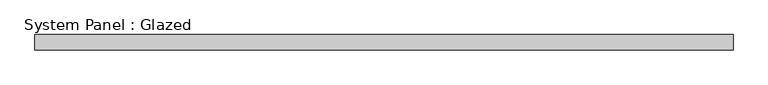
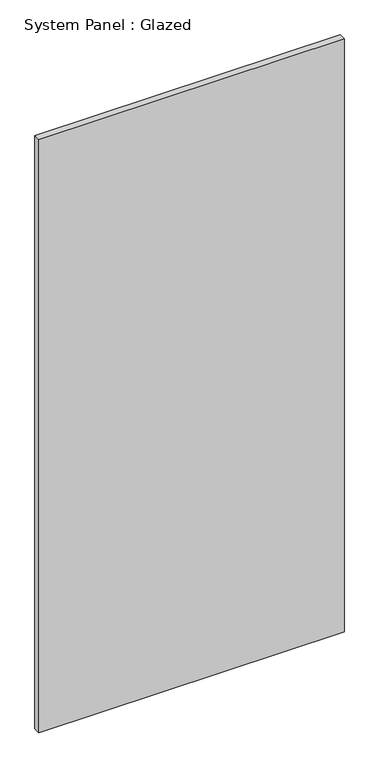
"""IFC4 building model written with IfcOpenShell, lengths in millimetres: plate geometry, System Panel : Glazed."""

import ifcopenshell
import ifcopenshell.guid

model = None  # the IFC model being written
_history = None  # IfcOwnerHistory: only IFC2X3 demands one
_inside = {}  # id of a spatial element -> (the spatial element, [elements in it])
_under = {}  # id of a project, library or spatial element -> (it, [spatial elements below it])
_declared = {}  # id of a project -> (the project, [libraries it declares])
_typed = {}  # id of a type object -> (the type object, [elements of that type])
_made_of = {}  # id of a material, layer set ... -> (it, [elements and type objects made of it])


def new_model(schema):
    """Start an empty IFC model of exactly this schema.

    Asked for "IFC4X3", IfcOpenShell would pick the latest addendum, in which some entities
    have other attributes; the version numbers below select the first issue.
    IFC2X3 requires an IfcOwnerHistory on every rooted entity: one is made here for all.
    """
    global model, _history
    if schema == "IFC4X3":
        model = ifcopenshell.file(schema_version=(4, 3, 0, 0))
    else:
        model = ifcopenshell.file(schema=schema)
    _inside.clear()
    _under.clear()
    _declared.clear()
    _typed.clear()
    _made_of.clear()
    _history = None
    if model.schema == "IFC2X3":
        org = make("IfcOrganization", Name="unknown")
        user = make(
            "IfcPersonAndOrganization",
            ThePerson=make("IfcPerson", FamilyName="unknown"),
            TheOrganization=org,
        )
        app = make(
            "IfcApplication",
            ApplicationDeveloper=org,
            Version="unknown",
            ApplicationFullName="unknown",
            ApplicationIdentifier="unknown",
        )
        _history = make(
            "IfcOwnerHistory",
            OwningUser=user,
            OwningApplication=app,
            ChangeAction="ADDED",
            CreationDate=0,
        )
    return model


def make(cls, **values):
    """One entity of the class cls with the attributes given. An attribute that is None is left unset."""
    return model.create_entity(
        cls, **{name: value for name, value in values.items() if value is not None}
    )


def rooted(cls, **values):
    """An entity with a GlobalId (a new one), such as an element, a storey or a relation."""
    return make(cls, GlobalId=ifcopenshell.guid.new(), OwnerHistory=_history, **values)


def si_unit(unit_type, name, prefix=None):
    """IfcSIUnit, for example si_unit("LENGTHUNIT", "METRE", prefix="MILLI")."""
    return make("IfcSIUnit", UnitType=unit_type, Prefix=prefix, Name=name)


def assignment(units):
    """IfcUnitAssignment: the units of a project."""
    return None if units is None else make("IfcUnitAssignment", Units=units)


def point(xyz):
    """IfcCartesianPoint."""
    return None if xyz is None else make("IfcCartesianPoint", Coordinates=xyz)


def direction(xyz):
    """IfcDirection."""
    return None if xyz is None else make("IfcDirection", DirectionRatios=xyz)


def frame(location, z_axis=None, x_axis=None):
    """IfcAxis2Placement3D, a coordinate frame: its origin and axes. An axis left out is left unset."""
    return make(
        "IfcAxis2Placement3D",
        Location=point(location),
        Axis=direction(z_axis),
        RefDirection=direction(x_axis),
    )


def origin():
    """The frame at (0, 0, 0) with its axes left unset."""
    return frame((0.0, 0.0, 0.0))


def origin_with_axes():
    """The frame at (0, 0, 0) with the z axis (0, 0, 1) and the x axis (1, 0, 0) written out."""
    return frame((0.0, 0.0, 0.0), z_axis=(0.0, 0.0, 1.0), x_axis=(1.0, 0.0, 0.0))


def place(relative_to, where):
    """IfcLocalPlacement: puts the frame where relative to a parent placement (None: the world)."""
    return make(
        "IfcLocalPlacement", PlacementRelTo=relative_to, RelativePlacement=where
    )


def context(
    kind, dimensions, precision=None, world=None, true_north=None, identifier=None
):
    """IfcGeometricRepresentationContext, for example the 3D "Model" context."""
    return make(
        "IfcGeometricRepresentationContext",
        ContextIdentifier=identifier,
        ContextType=kind,
        CoordinateSpaceDimension=dimensions,
        Precision=precision,
        WorldCoordinateSystem=world,
        TrueNorth=true_north,
    )


def project(units=None, contexts=None):
    """IfcProject with its units and contexts."""
    return rooted(
        "IfcProject",
        Name="project",
        RepresentationContexts=contexts,
        UnitsInContext=assignment(units),
    )


def spatial(cls, under=None, at=None, **own):
    """A site, building, storey or space (cls), placed at a placement, below another one or the project."""
    s = rooted(cls, ObjectPlacement=at, **own)
    if under is not None:
        _under.setdefault(under.id(), (under, []))[1].append(s)
    return s


def polyline(points):
    """IfcPolyline through the points."""
    return make("IfcPolyline", Points=[point(p) for p in points])


def outline(outer, holes=None, kind="AREA"):
    """IfcArbitraryClosedProfileDef: a profile drawn as a closed curve; with holes, ...WithVoids."""
    if holes is None:
        return make("IfcArbitraryClosedProfileDef", ProfileType=kind, OuterCurve=outer)
    return make(
        "IfcArbitraryProfileDefWithVoids",
        ProfileType=kind,
        OuterCurve=outer,
        InnerCurves=holes,
    )


def extrude(swept, where, along, depth):
    """IfcExtrudedAreaSolid: the profile swept, set in the frame where, extruded along a direction by depth."""
    return make(
        "IfcExtrudedAreaSolid",
        SweptArea=swept,
        Position=where,
        ExtrudedDirection=direction(along),
        Depth=depth,
    )


def shape(context_of_items, identifier, shape_type, items):
    """IfcShapeRepresentation: the items that make up one representation, for example the "Body"."""
    return make(
        "IfcShapeRepresentation",
        ContextOfItems=context_of_items,
        RepresentationIdentifier=identifier,
        RepresentationType=shape_type,
        Items=items,
    )


def source(mapping_origin, context_of_items, identifier, shape_type, items):
    """IfcRepresentationMap: a shape defined once, which mapped items show again and again."""
    return make(
        "IfcRepresentationMap",
        MappingOrigin=mapping_origin,
        MappedRepresentation=shape(context_of_items, identifier, shape_type, items),
    )


def transform(
    local_origin,
    x_axis=None,
    y_axis=None,
    z_axis=None,
    scale=None,
    scale2=None,
    scale3=None,
    uniform=True,
):
    """IfcCartesianTransformationOperator3D, or its non-uniform kind. x_axis, y_axis, z_axis: its Axis1, 2, 3."""
    if uniform:
        return make(
            "IfcCartesianTransformationOperator3D",
            Axis1=direction(x_axis),
            Axis2=direction(y_axis),
            LocalOrigin=point(local_origin),
            Scale=scale,
            Axis3=direction(z_axis),
        )
    return make(
        "IfcCartesianTransformationOperator3DnonUniform",
        Axis1=direction(x_axis),
        Axis2=direction(y_axis),
        LocalOrigin=point(local_origin),
        Scale=scale,
        Axis3=direction(z_axis),
        Scale2=scale2,
        Scale3=scale3,
    )


def mapped(mapping_source, mapping_target):
    """IfcMappedItem: shows the shape of a source again, moved by a transform."""
    return make(
        "IfcMappedItem", MappingSource=mapping_source, MappingTarget=mapping_target
    )


def made_of(thing, what):
    """Note that an element or type object is made of a material, layer set ...; save() writes the relation."""
    if what is not None:
        _made_of.setdefault(what.id(), (what, []))[1].append(thing)
    return thing


def element(
    cls,
    number,
    at=None,
    inside=None,
    cuts=None,
    type_object=None,
    material=None,
    context=None,
    identifier="Body",
    shape_type=None,
    held_by="IfcProductDefinitionShape",
    body=None,
    shapes=None,
    **own,
):
    """One element of the class cls, such as IfcWall. Its Tag is "e" and its number.

    at: its placement. inside: the storey or other place that contains it. cuts: it is an
    opening in that element (IfcRelVoidsElement). A single representation is given by context,
    identifier, shape_type and body (its items); several are given by shapes. held_by: the class
    of the entity that holds the representations. save() writes the other relations.
    """
    e = rooted(cls, Tag="e%d" % number, ObjectPlacement=at, **own)
    if body is not None:
        shapes = [shape(context, identifier, shape_type, body)]
    if shapes is not None:
        e.Representation = make(held_by, Representations=shapes)
    if inside is not None:
        _inside.setdefault(inside.id(), (inside, []))[1].append(e)
    if cuts is not None:
        rooted(
            "IfcRelVoidsElement", RelatingBuildingElement=cuts, RelatedOpeningElement=e
        )
    if type_object is not None:
        _typed.setdefault(type_object.id(), (type_object, []))[1].append(e)
    return made_of(e, material)


def aggregate(whole, parts):
    """IfcRelAggregates: a whole, such as a stair, and the parts it consists of."""
    return rooted("IfcRelAggregates", RelatingObject=whole, RelatedObjects=parts)


def save(model, path):
    """Write the relations noted so far, then the file.

    IfcRelAggregates (storeys below a building ...), IfcRelContainedInSpatialStructure (elements
    in a storey), IfcRelDefinesByType, IfcRelAssociatesMaterial and IfcRelDeclares: one each for
    every whole, place, type object, material and project.
    """
    for whole, parts in _under.values():
        aggregate(whole, parts)
    for where, things in _inside.values():
        rooted(
            "IfcRelContainedInSpatialStructure",
            RelatedElements=things,
            RelatingStructure=where,
        )
    for kind, things in _typed.values():
        rooted("IfcRelDefinesByType", RelatedObjects=things, RelatingType=kind)
    for what, things in _made_of.values():
        rooted("IfcRelAssociatesMaterial", RelatedObjects=things, RelatingMaterial=what)
    for by, libraries in _declared.values():
        rooted("IfcRelDeclares", RelatingContext=by, RelatedDefinitions=libraries)
    model.write(path)


def system_panel_glazed_ff1c54d0(model_context):
    return source(origin(), model_context, "Body", "SweptSolid", [
        extrude(outline(polyline([(577.85, 19.05), (-577.85, 19.05), (-577.85, 44.45), (577.85, 44.45), (577.85, 19.05)])), origin_with_axes(), (0.0, 0.0, 1.0), 2374.9),
    ])


if __name__ == "__main__":
    model = new_model("IFC4")
    model_context = context("Model", 3, world=origin())
    ifc_project = project(units=[si_unit("LENGTHUNIT", "METRE", prefix="MILLI")], contexts=[model_context])
    site = spatial("IfcSite", under=ifc_project)
    building = spatial("IfcBuilding", under=site)
    placement = place(None, origin())
    system_panel_glazed_shape = system_panel_glazed_ff1c54d0(model_context)
    element("IfcPlate", 1, ObjectType="System Panel : Glazed", at=placement, inside=building, context=model_context, shape_type="MappedRepresentation", body=[
        mapped(system_panel_glazed_shape, transform((0.0, 0.0, 0.0), x_axis=(1.0, 0.0, 0.0), y_axis=(0.0, 1.0, 0.0), z_axis=(0.0, 0.0, 1.0))),
    ])
    save(model, "model.ifc")
